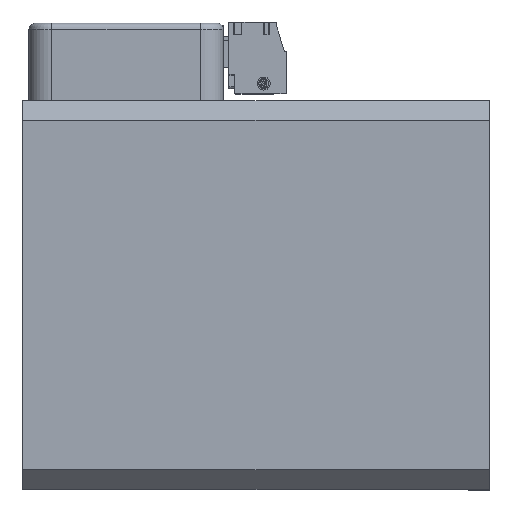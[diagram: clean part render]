
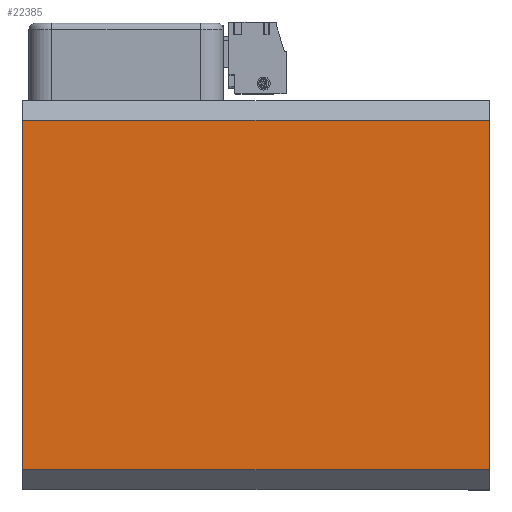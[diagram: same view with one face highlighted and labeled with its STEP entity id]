
A CAD part, top view. The second image highlights one B-rep face of the part: STEP entity #22385.
In plain terms, the highlighted planar face has unit normal (0, 0, 1).
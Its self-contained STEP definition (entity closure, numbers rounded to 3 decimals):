
#1077 = LINE ( 'NONE', #21443, #11336 ) ;
#1530 = LINE ( 'NONE', #22178, #21392 ) ;
#1720 = EDGE_CURVE ( 'NONE', #20723, #21287, #16087, .T. ) ;
#2412 = CARTESIAN_POINT ( 'NONE',  ( -36., 27., 30. ) ) ;
#4173 = EDGE_LOOP ( 'NONE', ( #19445, #12848, #9899, #6019 ) ) ;
#4944 = DIRECTION ( 'NONE',  ( 1., 0., 0. ) ) ;
#5627 = EDGE_CURVE ( 'NONE', #8485, #22508, #1530, .T. ) ;
#6019 = ORIENTED_EDGE ( 'NONE', *, *, #1720, .F. ) ;
#8485 = VERTEX_POINT ( 'NONE', #13650 ) ;
#8801 = EDGE_CURVE ( 'NONE', #21287, #22508, #1077, .T. ) ;
#8930 = FACE_OUTER_BOUND ( 'NONE', #4173, .T. ) ;
#9899 = ORIENTED_EDGE ( 'NONE', *, *, #8801, .F. ) ;
#9970 = CARTESIAN_POINT ( 'NONE',  ( 36., 27., 30. ) ) ;
#10319 = CARTESIAN_POINT ( 'NONE',  ( 36., 30., 30. ) ) ;
#10408 = VECTOR ( 'NONE', #13657, 1000. ) ;
#10638 = DIRECTION ( 'NONE',  ( 0., -1., 0. ) ) ;
#11274 = EDGE_CURVE ( 'NONE', #20723, #8485, #15524, .T. ) ;
#11336 = VECTOR ( 'NONE', #13797, 1000. ) ;
#12227 = DIRECTION ( 'NONE',  ( 0., 1., 0. ) ) ;
#12848 = ORIENTED_EDGE ( 'NONE', *, *, #5627, .T. ) ;
#13650 = CARTESIAN_POINT ( 'NONE',  ( -36., -27., 30. ) ) ;
#13657 = DIRECTION ( 'NONE',  ( 1., 0., 0. ) ) ;
#13797 = DIRECTION ( 'NONE',  ( 0., -1., 0. ) ) ;
#14070 = PLANE ( 'NONE',  #16192 ) ;
#14398 = CARTESIAN_POINT ( 'NONE',  ( 36., -27., 30. ) ) ;
#14926 = VECTOR ( 'NONE', #10638, 1000. ) ;
#15524 = LINE ( 'NONE', #24059, #14926 ) ;
#16087 = LINE ( 'NONE', #23260, #10408 ) ;
#16192 = AXIS2_PLACEMENT_3D ( 'NONE', #10319, #23754, #12227 ) ;
#19445 = ORIENTED_EDGE ( 'NONE', *, *, #11274, .T. ) ;
#20723 = VERTEX_POINT ( 'NONE', #2412 ) ;
#21287 = VERTEX_POINT ( 'NONE', #9970 ) ;
#21392 = VECTOR ( 'NONE', #4944, 1000. ) ;
#21443 = CARTESIAN_POINT ( 'NONE',  ( 36., 30., 30. ) ) ;
#22178 = CARTESIAN_POINT ( 'NONE',  ( -36., -27., 30. ) ) ;
#22385 = ADVANCED_FACE ( 'NONE', ( #8930 ), #14070, .F. ) ;
#22508 = VERTEX_POINT ( 'NONE', #14398 ) ;
#23260 = CARTESIAN_POINT ( 'NONE',  ( -36., 27., 30. ) ) ;
#23754 = DIRECTION ( 'NONE',  ( 0., 0., -1. ) ) ;
#24059 = CARTESIAN_POINT ( 'NONE',  ( -36., 30., 30. ) ) ;
